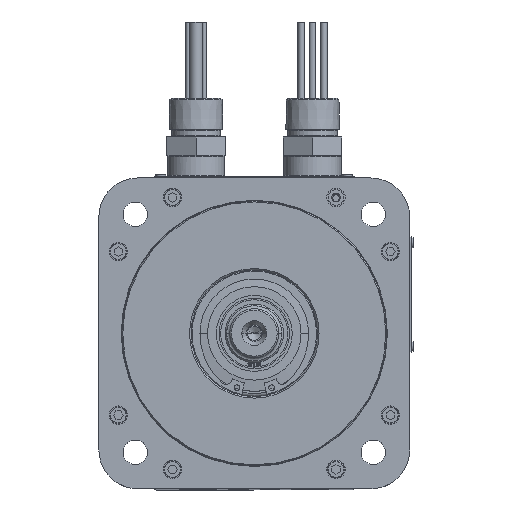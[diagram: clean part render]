
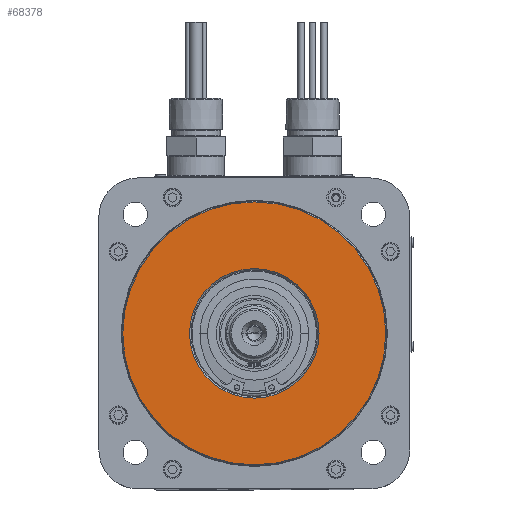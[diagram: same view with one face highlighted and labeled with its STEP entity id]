
A CAD part, top view. The second image highlights one B-rep face of the part: STEP entity #68378.
In plain terms, the highlighted planar face has unit normal (0, 0, 1).
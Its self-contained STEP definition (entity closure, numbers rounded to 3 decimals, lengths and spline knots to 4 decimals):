
#913 = EDGE_CURVE ( 'NONE', #1335, #1347, #61270, .T. ) ;
#914 = EDGE_CURVE ( 'NONE', #1340, #1341, #61246, .T. ) ;
#1335 = VERTEX_POINT ( 'NONE', #79106 ) ;
#1340 = VERTEX_POINT ( 'NONE', #79114 ) ;
#1341 = VERTEX_POINT ( 'NONE', #79116 ) ;
#1347 = VERTEX_POINT ( 'NONE', #79126 ) ;
#13963 = ORIENTED_EDGE ( 'NONE', *, *, #61245, .T. ) ;
#13964 = ORIENTED_EDGE ( 'NONE', *, *, #913, .T. ) ;
#13965 = ORIENTED_EDGE ( 'NONE', *, *, #914, .T. ) ;
#13966 = ORIENTED_EDGE ( 'NONE', *, *, #61249, .T. ) ;
#18989 = EDGE_LOOP ( 'NONE', ( #13965, #13966 ) ) ;
#18995 = EDGE_LOOP ( 'NONE', ( #13963, #13964 ) ) ;
#30039 = CARTESIAN_POINT ( 'NONE',  ( 0., 0., -1.827 ) ) ;
#30040 = DIRECTION ( 'NONE',  ( 0., 0., 1. ) ) ;
#30041 = DIRECTION ( 'NONE',  ( 1., 0., 0. ) ) ;
#30045 = CARTESIAN_POINT ( 'NONE',  ( 0., 0., -1.827 ) ) ;
#30046 = DIRECTION ( 'NONE',  ( 0., 0., -1. ) ) ;
#30047 = DIRECTION ( 'NONE',  ( 1., 0., 0. ) ) ;
#33200 = CIRCLE ( 'NONE', #33203, 2.5391 ) ;
#33203 = AXIS2_PLACEMENT_3D ( 'NONE', #30039, #30040, #30041 ) ;
#33204 = CIRCLE ( 'NONE', #33207, 1.2508 ) ;
#33207 = AXIS2_PLACEMENT_3D ( 'NONE', #30045, #30046, #30047 ) ;
#58849 = CARTESIAN_POINT ( 'NONE',  ( 0., 1.2208, -1.827 ) ) ;
#58853 = FACE_OUTER_BOUND ( 'NONE', #18995, .T. ) ;
#58854 = FACE_BOUND ( 'NONE', #18989, .T. ) ;
#58855 = PLANE ( 'NONE',  #79731 ) ;
#58857 = DIRECTION ( 'NONE',  ( 0., 0., 1. ) ) ;
#58858 = DIRECTION ( 'NONE',  ( 1., 0., 0. ) ) ;
#61220 = AXIS2_PLACEMENT_3D ( 'NONE', #78029, #78031, #78033 ) ;
#61235 = AXIS2_PLACEMENT_3D ( 'NONE', #78021, #78023, #78025 ) ;
#61245 = EDGE_CURVE ( 'NONE', #1347, #1335, #33200, .T. ) ;
#61246 = CIRCLE ( 'NONE', #61220, 1.2508 ) ;
#61249 = EDGE_CURVE ( 'NONE', #1341, #1340, #33204, .T. ) ;
#61270 = CIRCLE ( 'NONE', #61235, 2.5391 ) ;
#68378 = ADVANCED_FACE ( 'NONE', ( #58853, #58854 ), #58855, .T. ) ;
#78021 = CARTESIAN_POINT ( 'NONE',  ( 0., 0., -1.827 ) ) ;
#78023 = DIRECTION ( 'NONE',  ( 0., 0., 1. ) ) ;
#78025 = DIRECTION ( 'NONE',  ( 1., 0., 0. ) ) ;
#78029 = CARTESIAN_POINT ( 'NONE',  ( 0., 0., -1.827 ) ) ;
#78031 = DIRECTION ( 'NONE',  ( 0., 0., -1. ) ) ;
#78033 = DIRECTION ( 'NONE',  ( 1., 0., 0. ) ) ;
#79106 = CARTESIAN_POINT ( 'NONE',  ( 2.5391, 0., -1.827 ) ) ;
#79114 = CARTESIAN_POINT ( 'NONE',  ( 1.2508, 0., -1.827 ) ) ;
#79116 = CARTESIAN_POINT ( 'NONE',  ( -1.2508, 0., -1.827 ) ) ;
#79126 = CARTESIAN_POINT ( 'NONE',  ( -2.5391, 0., -1.827 ) ) ;
#79731 = AXIS2_PLACEMENT_3D ( 'NONE', #58849, #58857, #58858 ) ;
